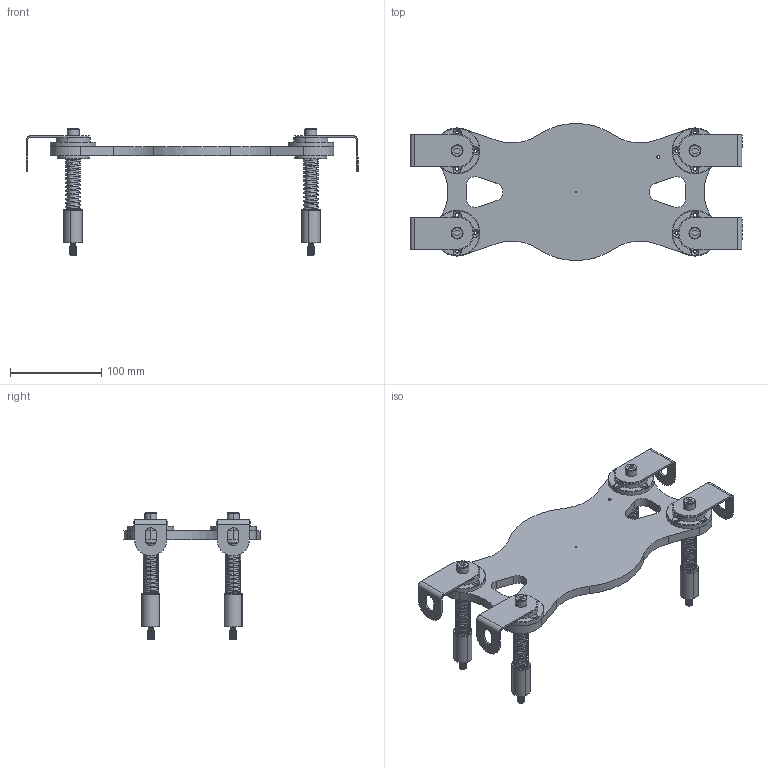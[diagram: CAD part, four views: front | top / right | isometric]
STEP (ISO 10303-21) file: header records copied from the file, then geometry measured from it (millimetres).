
FILE_DESCRIPTION (( 'STEP AP203' ), '1' );
FILE_NAME ('Floating Attachment 260x90.STEP', '2020-04-06T11:25:57', ( '' ), ( '' ), 'SwSTEP 2.0', 'SolidWorks 2019', '' );
FILE_SCHEMA (( 'CONFIG_CONTROL_DESIGN' ));
Length unit declared in the file: millimetre
Products named in the file (1): Floating Attachment 260x90
Bounding box: 363 x 149.46 x 139 mm (x, y, z)
Surface area: 179687.2 mm2 (no closed solid volume)
Topology: 0 solids, 43 shells, 624 faces, 1714 edges, 1146 vertices
Faces by surface type: cylinder 306, plane 154, cone 80, bspline 44, torus 40
Entity records: 52285 total; most frequent: CARTESIAN_POINT 36565, DIRECTION 3356, ORIENTED_EDGE 3104, EDGE_CURVE 1714, AXIS2_PLACEMENT_3D 1353, VERTEX_POINT 1146, CIRCLE 772, EDGE_LOOP 760
